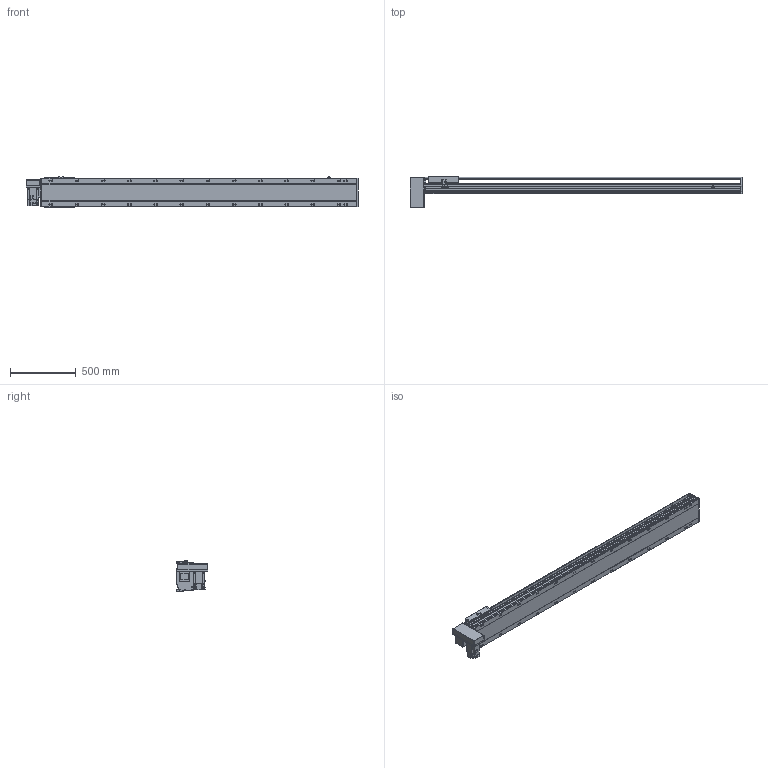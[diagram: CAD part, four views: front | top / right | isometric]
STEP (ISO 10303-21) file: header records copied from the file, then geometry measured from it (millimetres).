
FILE_DESCRIPTION(/* description */ ('STEP AP214'),/* implementation_level */ '2;1');
FILE_NAME(/* name */ 'PBS220-P40-S2050-RD-T75-C1-N(0)',/* time_stamp */ '2022-06-13T02:45:03+02:00',/* author */ ('License CC BY-ND 4.0'),/* organization */ ('CADENAS'),/* preprocessor_version */ 'ST-DEVELOPER v18.102',/* originating_system */ 'PARTsolutions',/* authorisation */ ' ');
FILE_SCHEMA (('AUTOMOTIVE_DESIGN {1 0 10303 214 3 1 1}'));
Length unit declared in the file: millimetre
Products named in the file (7): PBS220-P40-S2050-RD-T75-C1-N(0); PBS220_sensor; PBS220_plant; PBS220_sliser; T75-p1; PBS220T-RD_motors; PBS220-S2050()_body
Assembly tree (8 placements, depth 2):
  PBS220-P40-S2050-RD-T75-C1-N(0)
    PBS220_sensor  x3
    PBS220_plant
    PBS220_sliser
    T75-p1
    PBS220T-RD_motors
    PBS220-S2050()_body
Bounding box: 2534 x 239 x 238.5 mm (x, y, z)
Volume: 35592533.8 mm3; surface area: 3305450.5 mm2
Topology: 8 solids, 8 shells, 974 faces, 2536 edges, 1648 vertices
Faces by surface type: plane 618, cylinder 306, cone 50
Full cylindrical faces by diameter (mm): 2.013 x4, 4.5 x14, 4.917 x4, 6 x7, 6.647 x8, 8 x10, 8.376 x26, 8.5 x26, 10 x6, 14 x26, 38 x2, 40 x1, 70 x1
Entity records: 27189 total; most frequent: CARTESIAN_POINT 4822, DIRECTION 4725, ORIENTED_EDGE 4286, EDGE_CURVE 2143, AXIS2_PLACEMENT_3D 1685, VERTEX_POINT 1496, LINE 1355, VECTOR 1355
